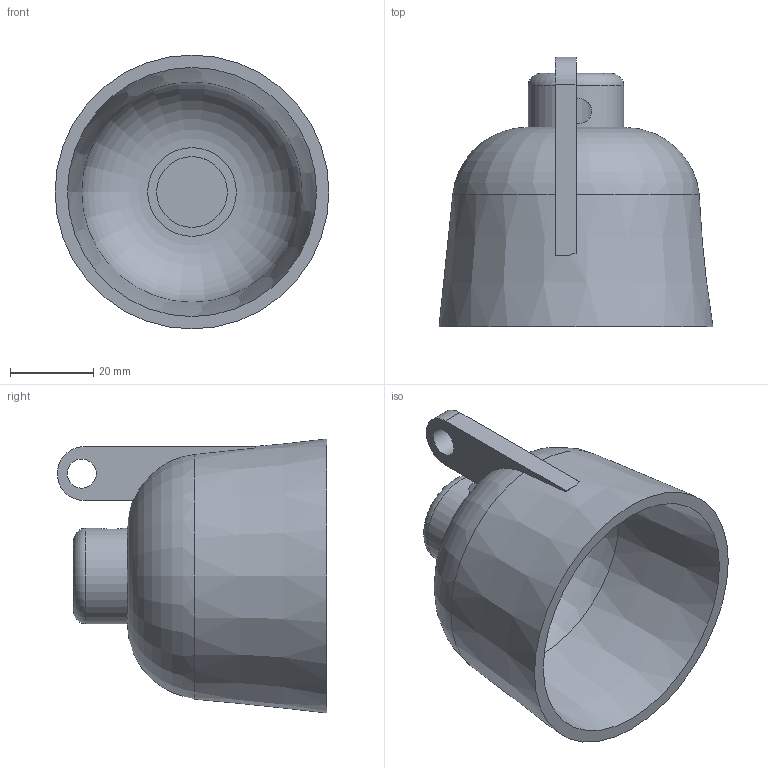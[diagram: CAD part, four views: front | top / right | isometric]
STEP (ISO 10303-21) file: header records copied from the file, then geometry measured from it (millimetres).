
FILE_DESCRIPTION(('STEP AP203'), '1');
FILE_NAME('lamp', '', ('UNSPECIFIED'), ('UNSPECIFIED'), 'ASCON STEP Converter 1.3', 'ASCON Math Kernel', '');
FILE_SCHEMA(('CONFIG_CONTROL_DESIGN'));
Length unit declared in the file: millimetre
Bounding box: 66 x 64.9 x 66 mm (x, y, z)
Volume: 35059 mm3; surface area: 22197 mm2
Topology: 1 solids, 1 shells, 21 faces, 45 edges, 29 vertices
Faces by surface type: plane 11, cylinder 5, torus 3, cone 2
Full cylindrical faces by diameter (mm): 6 x1, 7 x1, 17 x1, 23 x1
Entity records: 1247 total; most frequent: CARTESIAN_POINT 600, DIRECTION 91, ORIENTED_EDGE 72, AXIS2_PLACEMENT_3D 40, EDGE_LOOP 37, EDGE_CURVE 36, VERTEX_POINT 29, COLOUR_RGB 22
